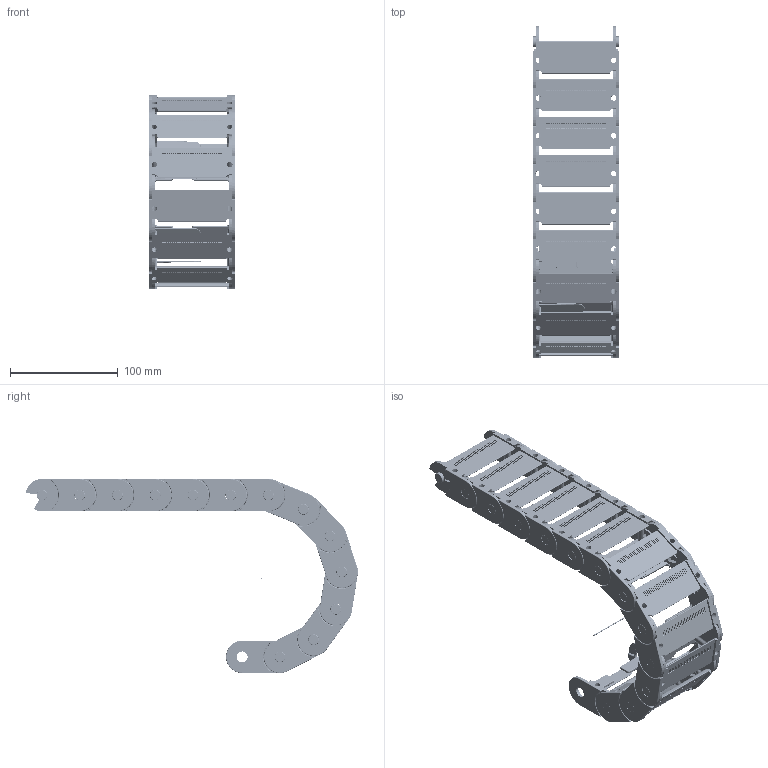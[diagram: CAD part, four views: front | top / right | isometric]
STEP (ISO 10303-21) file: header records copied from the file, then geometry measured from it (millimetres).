
FILE_DESCRIPTION((''),'2;1');
FILE_NAME('C:\Uebbing\PARAMETERKETTEN\KOLIBRI\Kol_30_080_4\Kol 30_080_4_R75.stp','2012-03-05T11:31:42',('Uebbing'),(''),'Autodesk Inventor 10','Autodesk Inventor 10','');
FILE_SCHEMA(('AUTOMOTIVE_DESIGN { 1 0 10303 214 1 1 1 1 }'));
Length unit declared in the file: millimetre
Products named in the file (3): KOLIBRI 30_080_4_PARAMETRISCH; Achse; Kol 30_080_4_Lasche
Assembly tree (14 placements, depth 2):
  KOLIBRI 30_080_4_PARAMETRISCH
    Achse
    Kol 30_080_4_Lasche  x13
Bounding box: 80 x 307.64 x 180 mm (x, y, z)
Volume: 259976.2 mm3; surface area: 209644.6 mm2
Topology: 14 solids, 14 shells, 9519 faces, 25250 edges, 16500 vertices
Faces by surface type: plane 3980, bspline 3627, cylinder 1574, torus 312, sphere 26
Full cylindrical faces by diameter (mm): 1 x1, 1.166 x13, 2.048 x13, 5.1 x13, 10 x13, 10.1 x13
Entity records: 25362 total; most frequent: CARTESIAN_POINT 7929, ORIENTED_EDGE 3850, DIRECTION 3125, EDGE_CURVE 1925, VERTEX_POINT 1266, VECTOR 1259, LINE 1259, AXIS2_PLACEMENT_3D 933
